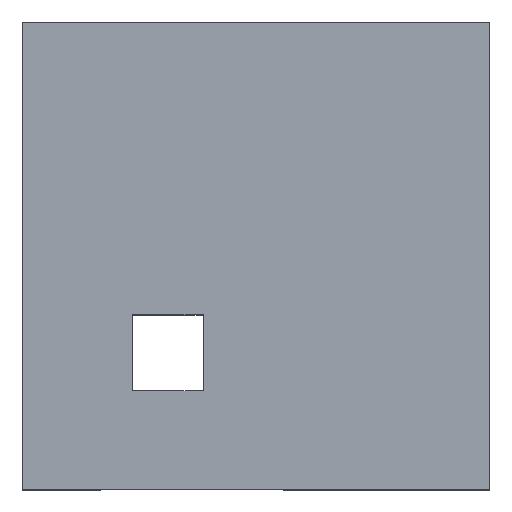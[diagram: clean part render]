
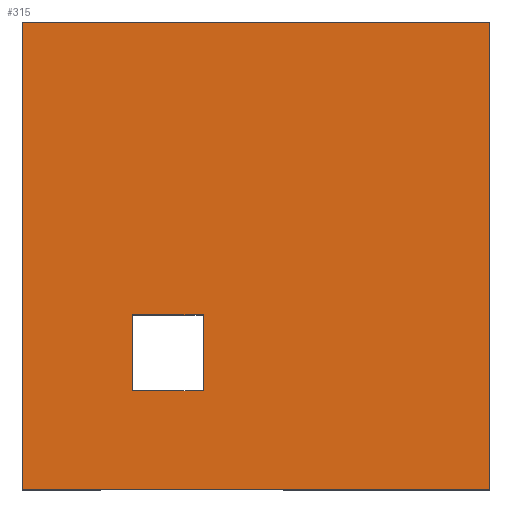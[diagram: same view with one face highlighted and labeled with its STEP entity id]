
A CAD part, top view. The second image highlights one B-rep face of the part: STEP entity #315.
In plain terms, the highlighted planar face has unit normal (0, 0, 1).
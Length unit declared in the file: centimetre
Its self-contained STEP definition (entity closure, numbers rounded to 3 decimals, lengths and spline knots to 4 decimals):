
#5 = PLANE ( 'NONE',  #653 ) ;
#9 = VECTOR ( 'NONE', #499, 100. ) ;
#56 = ORIENTED_EDGE ( 'NONE', *, *, #948, .F. ) ;
#88 = CARTESIAN_POINT ( 'NONE',  ( 0., 0., 1000. ) ) ;
#101 = VERTEX_POINT ( 'NONE', #1024 ) ;
#120 = EDGE_LOOP ( 'NONE', ( #453, #56, #521, #859 ) ) ;
#122 = VERTEX_POINT ( 'NONE', #232 ) ;
#124 = CARTESIAN_POINT ( 'NONE',  ( 0., 1000., 1000. ) ) ;
#178 = VECTOR ( 'NONE', #279, 100. ) ;
#192 = VERTEX_POINT ( 'NONE', #639 ) ;
#201 = EDGE_CURVE ( 'NONE', #1017, #122, #799, .T. ) ;
#205 = LINE ( 'NONE', #533, #654 ) ;
#206 = EDGE_LOOP ( 'NONE', ( #443, #358, #1006, #518 ) ) ;
#225 = CARTESIAN_POINT ( 'NONE',  ( 235.6189, 210.4233, 1000. ) ) ;
#232 = CARTESIAN_POINT ( 'NONE',  ( 1000., 0., 1000. ) ) ;
#240 = VECTOR ( 'NONE', #1030, 100. ) ;
#258 = CARTESIAN_POINT ( 'NONE',  ( 0., 1000., 1000. ) ) ;
#263 = LINE ( 'NONE', #587, #9 ) ;
#279 = DIRECTION ( 'NONE',  ( -1., 0., 0. ) ) ;
#295 = VERTEX_POINT ( 'NONE', #329 ) ;
#307 = VECTOR ( 'NONE', #959, 100. ) ;
#315 = ADVANCED_FACE ( 'NONE', ( #972, #484 ), #5, .T. ) ;
#324 = LINE ( 'NONE', #225, #378 ) ;
#329 = CARTESIAN_POINT ( 'NONE',  ( 235.6189, 373.719, 1000. ) ) ;
#346 = VERTEX_POINT ( 'NONE', #888 ) ;
#358 = ORIENTED_EDGE ( 'NONE', *, *, #201, .T. ) ;
#378 = VECTOR ( 'NONE', #796, 100. ) ;
#410 = DIRECTION ( 'NONE',  ( 0., -1., 0. ) ) ;
#443 = ORIENTED_EDGE ( 'NONE', *, *, #666, .T. ) ;
#453 = ORIENTED_EDGE ( 'NONE', *, *, #578, .F. ) ;
#463 = EDGE_CURVE ( 'NONE', #101, #192, #997, .T. ) ;
#484 = FACE_OUTER_BOUND ( 'NONE', #206, .T. ) ;
#490 = CARTESIAN_POINT ( 'NONE',  ( 235.6189, 210.4233, 1000. ) ) ;
#499 = DIRECTION ( 'NONE',  ( 0., 1., 0. ) ) ;
#503 = EDGE_CURVE ( 'NONE', #122, #101, #205, .T. ) ;
#518 = ORIENTED_EDGE ( 'NONE', *, *, #463, .T. ) ;
#521 = ORIENTED_EDGE ( 'NONE', *, *, #763, .F. ) ;
#533 = CARTESIAN_POINT ( 'NONE',  ( 1000., 1000., 1000. ) ) ;
#551 = DIRECTION ( 'NONE',  ( 1., 0., 0. ) ) ;
#555 = CARTESIAN_POINT ( 'NONE',  ( 386.9556, 373.719, 1000. ) ) ;
#578 = EDGE_CURVE ( 'NONE', #295, #346, #324, .T. ) ;
#580 = LINE ( 'NONE', #258, #943 ) ;
#587 = CARTESIAN_POINT ( 'NONE',  ( 386.9556, 210.4233, 1000. ) ) ;
#634 = CARTESIAN_POINT ( 'NONE',  ( 235.6189, 373.719, 1000. ) ) ;
#639 = CARTESIAN_POINT ( 'NONE',  ( 0., 1000., 1000. ) ) ;
#648 = CARTESIAN_POINT ( 'NONE',  ( 386.9556, 210.4233, 1000. ) ) ;
#650 = DIRECTION ( 'NONE',  ( 0., 0., 1. ) ) ;
#653 = AXIS2_PLACEMENT_3D ( 'NONE', #88, #650, #1041 ) ;
#654 = VECTOR ( 'NONE', #719, 100. ) ;
#666 = EDGE_CURVE ( 'NONE', #192, #1017, #580, .T. ) ;
#690 = VECTOR ( 'NONE', #551, 100. ) ;
#719 = DIRECTION ( 'NONE',  ( 0., 1., 0. ) ) ;
#752 = VERTEX_POINT ( 'NONE', #648 ) ;
#763 = EDGE_CURVE ( 'NONE', #752, #902, #263, .T. ) ;
#786 = LINE ( 'NONE', #634, #240 ) ;
#796 = DIRECTION ( 'NONE',  ( 0., -1., 0. ) ) ;
#799 = LINE ( 'NONE', #953, #307 ) ;
#859 = ORIENTED_EDGE ( 'NONE', *, *, #899, .F. ) ;
#870 = LINE ( 'NONE', #490, #690 ) ;
#877 = CARTESIAN_POINT ( 'NONE',  ( 0., 0., 1000. ) ) ;
#888 = CARTESIAN_POINT ( 'NONE',  ( 235.6189, 210.4233, 1000. ) ) ;
#899 = EDGE_CURVE ( 'NONE', #346, #752, #870, .T. ) ;
#902 = VERTEX_POINT ( 'NONE', #555 ) ;
#943 = VECTOR ( 'NONE', #410, 100. ) ;
#948 = EDGE_CURVE ( 'NONE', #902, #295, #786, .T. ) ;
#953 = CARTESIAN_POINT ( 'NONE',  ( 0., 0., 1000. ) ) ;
#959 = DIRECTION ( 'NONE',  ( 1., 0., 0. ) ) ;
#972 = FACE_BOUND ( 'NONE', #120, .T. ) ;
#997 = LINE ( 'NONE', #124, #178 ) ;
#1006 = ORIENTED_EDGE ( 'NONE', *, *, #503, .T. ) ;
#1017 = VERTEX_POINT ( 'NONE', #877 ) ;
#1024 = CARTESIAN_POINT ( 'NONE',  ( 1000., 1000., 1000. ) ) ;
#1030 = DIRECTION ( 'NONE',  ( -1., 0., 0. ) ) ;
#1041 = DIRECTION ( 'NONE',  ( 1., 0., 0. ) ) ;
